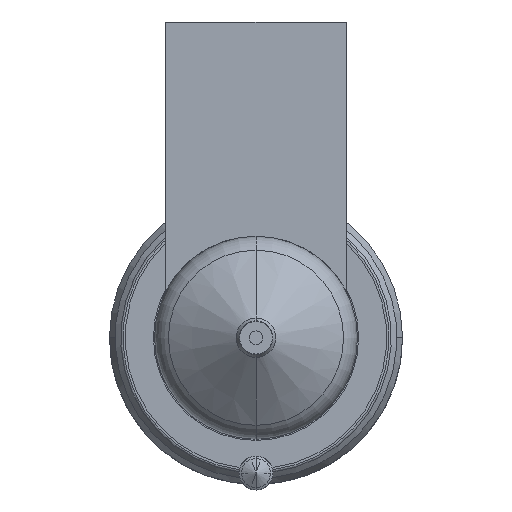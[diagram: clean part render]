
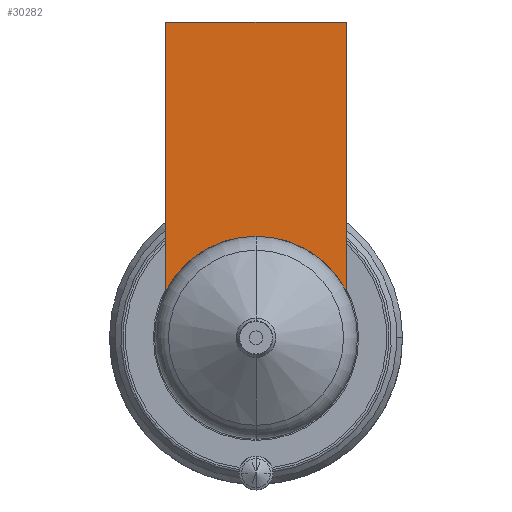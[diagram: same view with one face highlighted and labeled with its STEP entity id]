
A CAD part, front view. The second image highlights one B-rep face of the part: STEP entity #30282.
In plain terms, the highlighted planar face has unit normal (0, -1, 0).
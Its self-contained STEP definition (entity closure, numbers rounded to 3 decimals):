
#29621=DIRECTION('',(1.,0.,0.));
#29622=VECTOR('',#29621,16.);
#29623=CARTESIAN_POINT('',(-8.,-54.,28.));
#29624=LINE('',#29623,#29622);
#29629=CARTESIAN_POINT('',(0.,-54.,0.));
#29630=DIRECTION('',(0.,-1.,0.));
#29631=DIRECTION('',(0.889,0.,0.458));
#29632=AXIS2_PLACEMENT_3D('',#29629,#29630,#29631);
#29637=CARTESIAN_POINT('',(0.,-54.,0.));
#29638=DIRECTION('',(0.,-1.,0.));
#29639=DIRECTION('',(0.,0.,1.));
#29640=AXIS2_PLACEMENT_3D('',#29637,#29638,#29639);
#29666=DIRECTION('',(0.,0.,-1.));
#29667=VECTOR('',#29666,23.877);
#29668=CARTESIAN_POINT('',(-8.,-54.,28.));
#29669=LINE('',#29668,#29667);
#30154=DIRECTION('',(0.,0.,-1.));
#30155=VECTOR('',#30154,23.877);
#30156=CARTESIAN_POINT('',(8.,-54.,28.));
#30157=LINE('',#30156,#30155);
#30207=CARTESIAN_POINT('',(-8.,-54.,28.));
#30208=VERTEX_POINT('',#30207);
#30213=CARTESIAN_POINT('',(8.,-54.,28.));
#30214=VERTEX_POINT('',#30213);
#30217=CARTESIAN_POINT('',(-8.,-54.,4.123));
#30218=VERTEX_POINT('',#30217);
#30221=CARTESIAN_POINT('',(8.,-54.,4.123));
#30222=VERTEX_POINT('',#30221);
#30263=CARTESIAN_POINT('',(0.,-54.,9.));
#30264=VERTEX_POINT('',#30263);
#30265=CARTESIAN_POINT('',(0.,-54.,9.));
#30266=DIRECTION('',(0.,1.,0.));
#30267=DIRECTION('',(0.,0.,-1.));
#30268=AXIS2_PLACEMENT_3D('',#30265,#30266,#30267);
#30269=PLANE('',#30268);
#30271=ORIENTED_EDGE('',*,*,#30270,.F.);
#30273=ORIENTED_EDGE('',*,*,#30272,.T.);
#30275=ORIENTED_EDGE('',*,*,#30274,.T.);
#30277=ORIENTED_EDGE('',*,*,#30276,.T.);
#30279=ORIENTED_EDGE('',*,*,#30278,.T.);
#30280=EDGE_LOOP('',(#30271,#30273,#30275,#30277,#30279));
#30281=FACE_OUTER_BOUND('',#30280,.F.);
#30282=ADVANCED_FACE('',(#30281),#30269,.F.);
#29633=CIRCLE('',#29632,9.);
#29641=CIRCLE('',#29640,9.);
#30270=EDGE_CURVE('',#30208,#30218,#29669,.T.);
#30272=EDGE_CURVE('',#30208,#30214,#29624,.T.);
#30274=EDGE_CURVE('',#30214,#30222,#30157,.T.);
#30276=EDGE_CURVE('',#30222,#30264,#29633,.T.);
#30278=EDGE_CURVE('',#30264,#30218,#29641,.T.);
